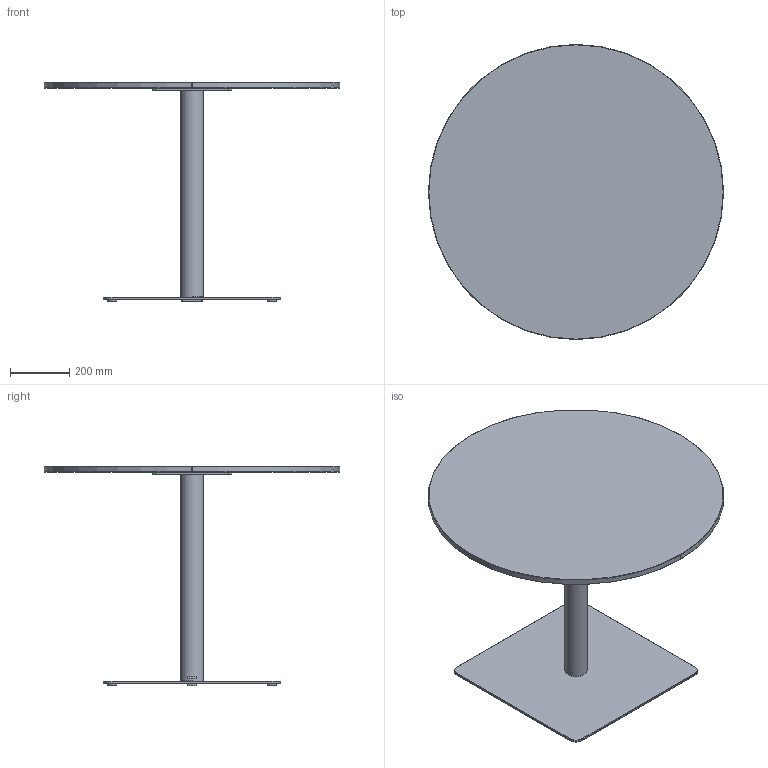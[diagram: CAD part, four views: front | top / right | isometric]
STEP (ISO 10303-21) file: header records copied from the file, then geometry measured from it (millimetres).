
FILE_DESCRIPTION( ('This file contains a STEP AP42 implementation' ,'as created by ZW3D STEP Interface translator.') ,'2;1' );
FILE_NAME( 'Henri - B_Carré - F1 - M1 - 1000 x 1000 x 750.stp' ,'24 912.161622', (''), ('ZWCAD Software Co.'), 'Version 1.0', 'ZW3D to STEP translator', '' );
FILE_SCHEMA(('AUTOMOTIVE_DESIGN { 1 0 10303 214 1 1 1 1 }'));
Length unit declared in the file: millimetre
Products named in the file (14): 0; PIED BISTROT PARAMETRIQUE_; COLONNE ACIER Ø76 V.02_; TUB-D076-02_; PLA-R76B-01_; CROIX ACIER 370 V.02_; CRX-X370-02_; SOCLE ACIER L 600x600 V.02_; SCL-R600-02_; PLA-R30A-01_; PLA-R30A-01; WUERTH 0276063020 Euro-screw 6.3x2 Verzinkt_; PLATEAU BISTROT PARAMETRIQUE_; insert_m6_13_
Assembly tree (22 placements, depth 3):
  0
  PIED BISTROT PARAMETRIQUE_
    COLONNE ACIER Ø76 V.02_
      TUB-D076-02_
      PLA-R76B-01_  x2
    CROIX ACIER 370 V.02_
      CRX-X370-02_
    SOCLE ACIER L 600x600 V.02_
      SCL-R600-02_
      PLA-R30A-01_
      PLA-R30A-01  x3
    WUERTH 0276063020 Euro-screw 6.3x2 Verzinkt_
    PLATEAU BISTROT PARAMETRIQUE_
      insert_m6_13_  x8
Bounding box: 1000 x 1000 x 744 mm (x, y, z)
Volume: 19520706 mm3; surface area: 2885379.1 mm2
Topology: 19 solids, 19 shells, 537 faces, 1310 edges, 822 vertices
Faces by surface type: plane 262, bspline 121, cylinder 98, cone 55, torus 1
Full cylindrical faces by diameter (mm): 4.88 x1, 6 x8, 6.3 x1, 8 x45, 12 x2, 14 x2, 30 x4, 72 x1, 76 x1
Entity records: 12310 total; most frequent: CARTESIAN_POINT 3396, ORIENTED_EDGE 1624, DIRECTION 1519, EDGE_CURVE 812, VERTEX_POINT 518, VECTOR 513, LINE 513, AXIS2_PLACEMENT_3D 503
